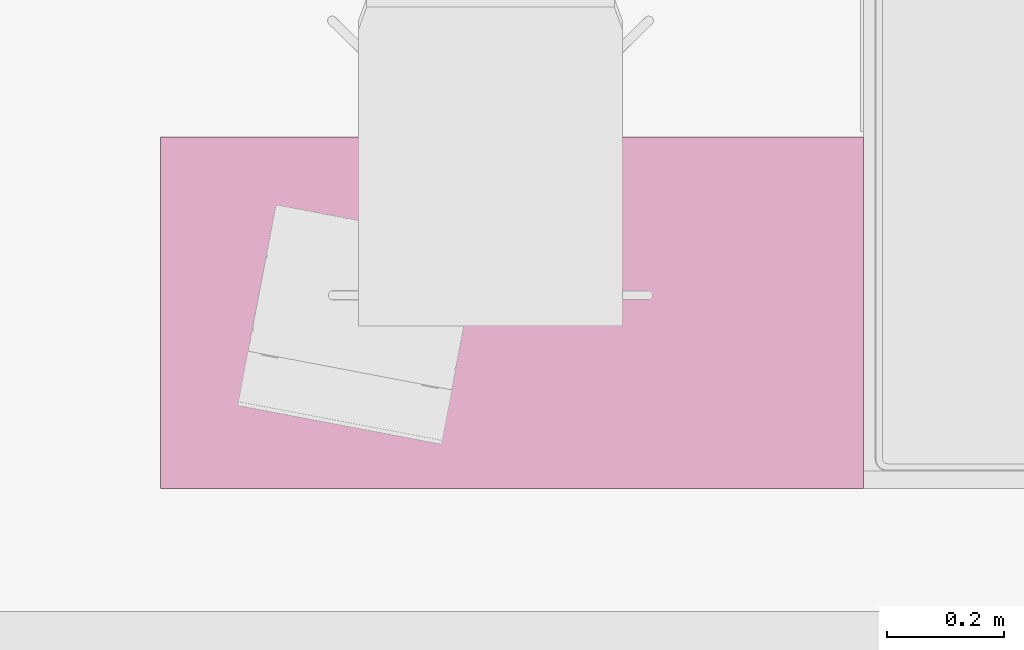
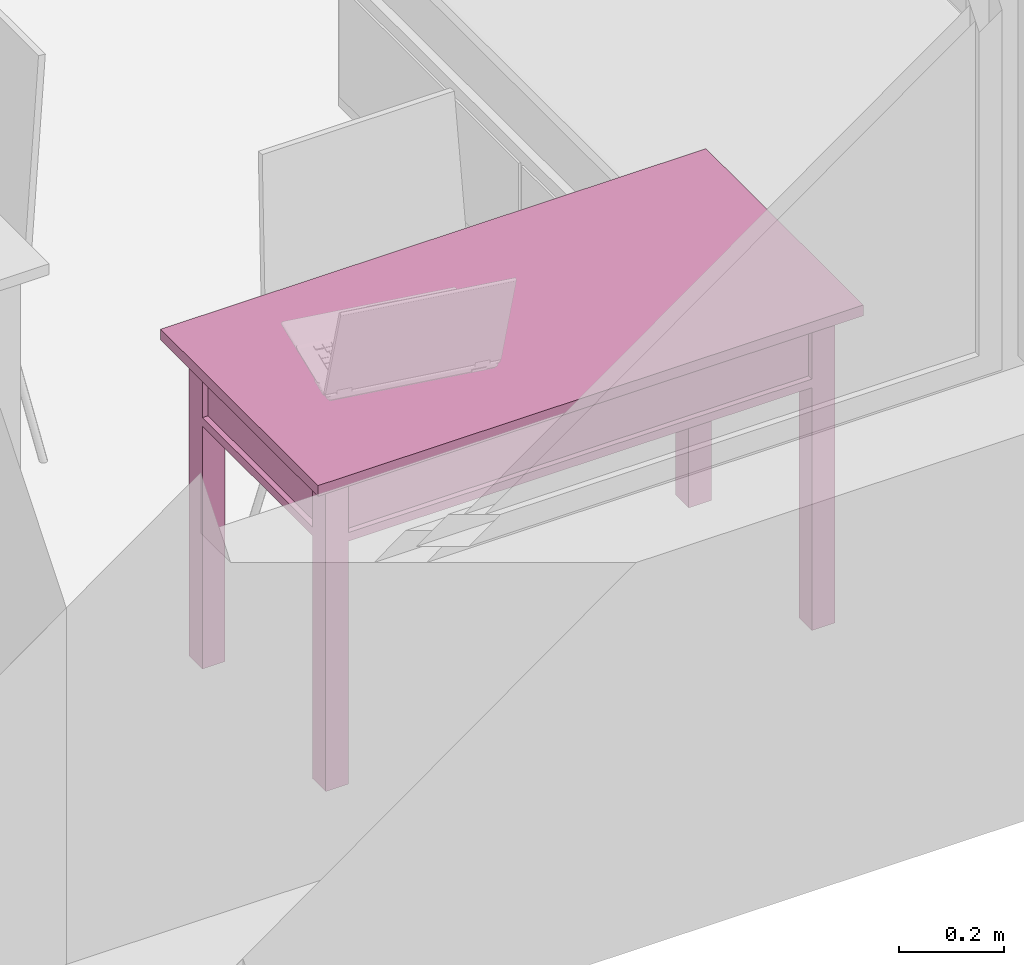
# One storey, part 114 of 165: 1 furnishing.
"""IFC2X3 building model written with IfcOpenShell, lengths in millimetres."""

import ifcopenshell
import ifcopenshell.guid

model = None  # the IFC model being written
_history = None  # IfcOwnerHistory: only IFC2X3 demands one
_inside = {}  # id of a spatial element -> (the spatial element, [elements in it])
_under = {}  # id of a project, library or spatial element -> (it, [spatial elements below it])
_declared = {}  # id of a project -> (the project, [libraries it declares])
_typed = {}  # id of a type object -> (the type object, [elements of that type])
_made_of = {}  # id of a material, layer set ... -> (it, [elements and type objects made of it])


def new_model(schema):
    """Start an empty IFC model of exactly this schema.

    Asked for "IFC4X3", IfcOpenShell would pick the latest addendum, in which some entities
    have other attributes; the version numbers below select the first issue.
    IFC2X3 requires an IfcOwnerHistory on every rooted entity: one is made here for all.
    """
    global model, _history
    if schema == "IFC4X3":
        model = ifcopenshell.file(schema_version=(4, 3, 0, 0))
    else:
        model = ifcopenshell.file(schema=schema)
    _inside.clear()
    _under.clear()
    _declared.clear()
    _typed.clear()
    _made_of.clear()
    _history = None
    if model.schema == "IFC2X3":
        org = make("IfcOrganization", Name="unknown")
        user = make(
            "IfcPersonAndOrganization",
            ThePerson=make("IfcPerson", FamilyName="unknown"),
            TheOrganization=org,
        )
        app = make(
            "IfcApplication",
            ApplicationDeveloper=org,
            Version="unknown",
            ApplicationFullName="unknown",
            ApplicationIdentifier="unknown",
        )
        _history = make(
            "IfcOwnerHistory",
            OwningUser=user,
            OwningApplication=app,
            ChangeAction="ADDED",
            CreationDate=0,
        )
    return model


def make(cls, **values):
    """One entity of the class cls with the attributes given. An attribute that is None is left unset."""
    return model.create_entity(
        cls, **{name: value for name, value in values.items() if value is not None}
    )


def entity(cls, *values):
    """Any entity or typed value of the class cls, its attributes in the order of the schema. None: left unset."""
    e = model.create_entity(cls)
    for i, value in enumerate(values):
        if value is not None:
            e[i] = value
    return e


def rooted(cls, **values):
    """An entity with a GlobalId (a new one), such as an element, a storey or a relation."""
    return make(cls, GlobalId=ifcopenshell.guid.new(), OwnerHistory=_history, **values)


def si_unit(unit_type, name, prefix=None):
    """IfcSIUnit, for example si_unit("LENGTHUNIT", "METRE", prefix="MILLI")."""
    return make("IfcSIUnit", UnitType=unit_type, Prefix=prefix, Name=name)


def converted_unit(unit_type, name, factor, base, dimensions=None, offset=None):
    """IfcConversionBasedUnit, such as the inch: factor (a typed value) times the base unit."""
    return make(
        "IfcConversionBasedUnit"
        if offset is None
        else "IfcConversionBasedUnitWithOffset",
        ConversionOffset=offset,
        Dimensions=None
        if dimensions is None
        else entity("IfcDimensionalExponents", *dimensions),
        UnitType=unit_type,
        Name=name,
        ConversionFactor=make(
            "IfcMeasureWithUnit", ValueComponent=factor, UnitComponent=base
        ),
    )


def money_unit(currency):
    """IfcMonetaryUnit."""
    return make("IfcMonetaryUnit", Currency=currency)


def assignment(units):
    """IfcUnitAssignment: the units of a project."""
    return None if units is None else make("IfcUnitAssignment", Units=units)


def point(xyz):
    """IfcCartesianPoint."""
    return None if xyz is None else make("IfcCartesianPoint", Coordinates=xyz)


def direction(xyz):
    """IfcDirection."""
    return None if xyz is None else make("IfcDirection", DirectionRatios=xyz)


def frame(location, z_axis=None, x_axis=None):
    """IfcAxis2Placement3D, a coordinate frame: its origin and axes. An axis left out is left unset."""
    return make(
        "IfcAxis2Placement3D",
        Location=point(location),
        Axis=direction(z_axis),
        RefDirection=direction(x_axis),
    )


def origin_with_axes():
    """The frame at (0, 0, 0) with the z axis (0, 0, 1) and the x axis (1, 0, 0) written out."""
    return frame((0.0, 0.0, 0.0), z_axis=(0.0, 0.0, 1.0), x_axis=(1.0, 0.0, 0.0))


def place(relative_to, where):
    """IfcLocalPlacement: puts the frame where relative to a parent placement (None: the world)."""
    return make(
        "IfcLocalPlacement", PlacementRelTo=relative_to, RelativePlacement=where
    )


def context(
    kind, dimensions, precision=None, world=None, true_north=None, identifier=None
):
    """IfcGeometricRepresentationContext, for example the 3D "Model" context."""
    return make(
        "IfcGeometricRepresentationContext",
        ContextIdentifier=identifier,
        ContextType=kind,
        CoordinateSpaceDimension=dimensions,
        Precision=precision,
        WorldCoordinateSystem=world,
        TrueNorth=true_north,
    )


def subcontext(parent, identifier, kind, view, scale=None):
    """IfcGeometricRepresentationSubContext, for example "Body" below "Model"."""
    return make(
        "IfcGeometricRepresentationSubContext",
        ContextIdentifier=identifier,
        ContextType=kind,
        ParentContext=parent,
        TargetScale=scale,
        TargetView=view,
    )


def project(units=None, contexts=None):
    """IfcProject with its units and contexts."""
    return rooted(
        "IfcProject",
        Name="project",
        RepresentationContexts=contexts,
        UnitsInContext=assignment(units),
    )


def spatial(cls, under=None, at=None, **own):
    """A site, building, storey or space (cls), placed at a placement, below another one or the project."""
    s = rooted(cls, ObjectPlacement=at, **own)
    if under is not None:
        _under.setdefault(under.id(), (under, []))[1].append(s)
    return s


def faces_of(points, faces, orient=None, outer=None):
    """IfcFace entities. A face is a list of loops; a loop is a list of indices into points, from 0.

    orient and outer hold one flag for each loop. By default every Orientation is true, the
    first loop of a face is its IfcFaceOuterBound and the others are IfcFaceBound.
    """
    made = []
    for i, loops in enumerate(faces):
        bounds = []
        for j, loop in enumerate(loops):
            is_outer = j == 0 if outer is None else outer[i][j]
            bounds.append(
                make(
                    "IfcFaceOuterBound" if is_outer else "IfcFaceBound",
                    Bound=make("IfcPolyLoop", Polygon=[points[k] for k in loop]),
                    Orientation=True if orient is None else orient[i][j],
                )
            )
        made.append(make("IfcFace", Bounds=bounds))
    return made


def faceted_brep(points, faces, orient=None, outer=None, voids=None):
    """IfcFacetedBrep: a solid bounded by flat faces; with voids (closed shells), ...WithVoids."""
    shared = [point(p) for p in points]
    hull = make("IfcClosedShell", CfsFaces=faces_of(shared, faces, orient, outer))
    if voids is None:
        return make("IfcFacetedBrep", Outer=hull)
    return make(
        "IfcFacetedBrepWithVoids",
        Outer=hull,
        Voids=[
            make(cls, CfsFaces=faces_of(shared, fs, o, b)) for cls, fs, o, b in voids
        ],
    )


def shape(context_of_items, identifier, shape_type, items):
    """IfcShapeRepresentation: the items that make up one representation, for example the "Body"."""
    return make(
        "IfcShapeRepresentation",
        ContextOfItems=context_of_items,
        RepresentationIdentifier=identifier,
        RepresentationType=shape_type,
        Items=items,
    )


def source(mapping_origin, context_of_items, identifier, shape_type, items):
    """IfcRepresentationMap: a shape defined once, which mapped items show again and again."""
    return make(
        "IfcRepresentationMap",
        MappingOrigin=mapping_origin,
        MappedRepresentation=shape(context_of_items, identifier, shape_type, items),
    )


def transform(
    local_origin,
    x_axis=None,
    y_axis=None,
    z_axis=None,
    scale=None,
    scale2=None,
    scale3=None,
    uniform=True,
):
    """IfcCartesianTransformationOperator3D, or its non-uniform kind. x_axis, y_axis, z_axis: its Axis1, 2, 3."""
    if uniform:
        return make(
            "IfcCartesianTransformationOperator3D",
            Axis1=direction(x_axis),
            Axis2=direction(y_axis),
            LocalOrigin=point(local_origin),
            Scale=scale,
            Axis3=direction(z_axis),
        )
    return make(
        "IfcCartesianTransformationOperator3DnonUniform",
        Axis1=direction(x_axis),
        Axis2=direction(y_axis),
        LocalOrigin=point(local_origin),
        Scale=scale,
        Axis3=direction(z_axis),
        Scale2=scale2,
        Scale3=scale3,
    )


def mapped(mapping_source, mapping_target):
    """IfcMappedItem: shows the shape of a source again, moved by a transform."""
    return make(
        "IfcMappedItem", MappingSource=mapping_source, MappingTarget=mapping_target
    )


def material(Name=None, Category=None):
    """IfcMaterial."""
    return make("IfcMaterial", Name=Name, Category=Category)


def material_list(materials):
    """IfcMaterialList."""
    return make("IfcMaterialList", Materials=materials)


def made_of(thing, what):
    """Note that an element or type object is made of a material, layer set ...; save() writes the relation."""
    if what is not None:
        _made_of.setdefault(what.id(), (what, []))[1].append(thing)
    return thing


def type_object(cls, material=None, **own):
    """A type object (cls), such as IfcWallType, which elements share."""
    return made_of(rooted(cls, **own), material)


def element(
    cls,
    number,
    at=None,
    inside=None,
    cuts=None,
    type_object=None,
    material=None,
    context=None,
    identifier="Body",
    shape_type=None,
    held_by="IfcProductDefinitionShape",
    body=None,
    shapes=None,
    **own,
):
    """One element of the class cls, such as IfcWall. Its Tag is "e" and its number.

    at: its placement. inside: the storey or other place that contains it. cuts: it is an
    opening in that element (IfcRelVoidsElement). A single representation is given by context,
    identifier, shape_type and body (its items); several are given by shapes. held_by: the class
    of the entity that holds the representations. save() writes the other relations.
    """
    e = rooted(cls, Tag="e%d" % number, ObjectPlacement=at, **own)
    if body is not None:
        shapes = [shape(context, identifier, shape_type, body)]
    if shapes is not None:
        e.Representation = make(held_by, Representations=shapes)
    if inside is not None:
        _inside.setdefault(inside.id(), (inside, []))[1].append(e)
    if cuts is not None:
        rooted(
            "IfcRelVoidsElement", RelatingBuildingElement=cuts, RelatedOpeningElement=e
        )
    if type_object is not None:
        _typed.setdefault(type_object.id(), (type_object, []))[1].append(e)
    return made_of(e, material)


def aggregate(whole, parts):
    """IfcRelAggregates: a whole, such as a stair, and the parts it consists of."""
    return rooted("IfcRelAggregates", RelatingObject=whole, RelatedObjects=parts)


def save(model, path):
    """Write the relations noted so far, then the file.

    IfcRelAggregates (storeys below a building ...), IfcRelContainedInSpatialStructure (elements
    in a storey), IfcRelDefinesByType, IfcRelAssociatesMaterial and IfcRelDeclares: one each for
    every whole, place, type object, material and project.
    """
    for whole, parts in _under.values():
        aggregate(whole, parts)
    for where, things in _inside.values():
        rooted(
            "IfcRelContainedInSpatialStructure",
            RelatedElements=things,
            RelatingStructure=where,
        )
    for kind, things in _typed.values():
        rooted("IfcRelDefinesByType", RelatedObjects=things, RelatingType=kind)
    for what, things in _made_of.values():
        rooted("IfcRelAssociatesMaterial", RelatedObjects=things, RelatingMaterial=what)
    for by, libraries in _declared.values():
        rooted("IfcRelDeclares", RelatingContext=by, RelatedDefinitions=libraries)
    model.write(path)


model = new_model("IFC2X3")

# Units and contexts
model_context = context("Model", 3, precision=1e-05, world=origin_with_axes(), true_north=direction((0.0, 1.0)))
body_context = subcontext(model_context, "Body", "Model", "MODEL_VIEW")
ifc_project = project(units=[si_unit("LENGTHUNIT", "METRE", prefix="MILLI"), si_unit("AREAUNIT", "SQUARE_METRE"), si_unit("VOLUMEUNIT", "CUBIC_METRE"), converted_unit("PLANEANGLEUNIT", "DEGREE", entity("IfcPlaneAngleMeasure", 0.0174532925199), si_unit("PLANEANGLEUNIT", "RADIAN"), dimensions=[0, 0, 0, 0, 0, 0, 0]), si_unit("SOLIDANGLEUNIT", "STERADIAN"), money_unit("USD"), converted_unit("TIMEUNIT", "Year", entity("IfcTimeMeasure", 31556926.0), si_unit("TIMEUNIT", "SECOND"), dimensions=[0, 0, 0, 0, 0, 0, 0]), si_unit("MASSUNIT", "GRAM"), si_unit("THERMODYNAMICTEMPERATUREUNIT", "DEGREE_CELSIUS"), si_unit("LUMINOUSINTENSITYUNIT", "LUMEN")], contexts=[model_context])

# Site, building, storey
site_placement = place(None, origin_with_axes())
site = spatial("IfcSite", under=ifc_project, at=site_placement, Name="Site", CompositionType="ELEMENT")
building_placement = place(site_placement, origin_with_axes())
building = spatial("IfcBuilding", under=site, at=building_placement, Name="Building", CompositionType="ELEMENT")
storey_placement = place(building_placement, frame((0.0, 0.0, 6300.0), z_axis=(0.0, 0.0, 1.0), x_axis=(1.0, 0.0, 0.0)))
storey = spatial("IfcBuildingStorey", under=building, at=storey_placement, Name="4KORRUS", CompositionType="ELEMENT", Elevation=6300.0)

# Furnishing
ifc_material = material(Name="Background")
ifc_material_list = material_list([ifc_material])
furnishing_element_type = type_object("IfcFurnishingElementType", Name="Rectangular Table 01 19")
shared_shape = source(origin_with_axes(), body_context, "Body", "Brep", [
    faceted_brep([(-90.0, 40.0, 0.0), (-90.0, 90.0, 0.0), (-40.0, 90.0, 0.0), (-40.0, 40.0, 0.0), (-90.0, 40.0, 725.0), (-90.0, 90.0, 725.0), (-40.0, 90.0, 725.0), (-40.0, 40.0, 725.0)], [[[0, 1, 2, 3]], [[0, 4, 5, 1]], [[1, 5, 6, 2]], [[2, 6, 7, 3]], [[3, 7, 4, 0]], [[7, 6, 5, 4]]]),
    faceted_brep([(-1160.0, 40.0, 0.0), (-1160.0, 90.0, 0.0), (-1110.0, 90.0, 0.0), (-1110.0, 40.0, 0.0), (-1160.0, 40.0, 725.0), (-1160.0, 90.0, 725.0), (-1110.0, 90.0, 725.0), (-1110.0, 40.0, 725.0)], [[[0, 1, 2, 3]], [[0, 4, 5, 1]], [[1, 5, 6, 2]], [[2, 6, 7, 3]], [[3, 7, 4, 0]], [[7, 6, 5, 4]]]),
    faceted_brep([(-90.0, 510.0, 0.0), (-90.0, 560.0, 0.0), (-40.0, 560.0, 0.0), (-40.0, 510.0, 0.0), (-90.0, 510.0, 725.0), (-90.0, 560.0, 725.0), (-40.0, 560.0, 725.0), (-40.0, 510.0, 725.0)], [[[0, 1, 2, 3]], [[0, 4, 5, 1]], [[1, 5, 6, 2]], [[2, 6, 7, 3]], [[3, 7, 4, 0]], [[7, 6, 5, 4]]]),
    faceted_brep([(-1160.0, 510.0, 0.0), (-1160.0, 560.0, 0.0), (-1110.0, 560.0, 0.0), (-1110.0, 510.0, 0.0), (-1160.0, 510.0, 725.0), (-1160.0, 560.0, 725.0), (-1110.0, 560.0, 725.0), (-1110.0, 510.0, 725.0)], [[[0, 1, 2, 3]], [[0, 4, 5, 1]], [[1, 5, 6, 2]], [[2, 6, 7, 3]], [[3, 7, 4, 0]], [[7, 6, 5, 4]]]),
    faceted_brep([(-1160.0, 40.0, 565.0), (-1160.0, 560.0, 565.0), (-40.0, 560.0, 565.0), (-40.0, 40.0, 565.0), (-1160.0, 40.0, 585.0), (-1160.0, 560.0, 585.0), (-40.0, 560.0, 585.0), (-40.0, 40.0, 585.0)], [[[0, 1, 2, 3]], [[0, 4, 5, 1]], [[1, 5, 6, 2]], [[2, 6, 7, 3]], [[3, 7, 4, 0]], [[7, 6, 5, 4]]]),
    faceted_brep([(-1110.0, 52.5, 585.0), (-1110.0, 77.5, 585.0), (-90.0, 77.5, 585.0), (-90.0, 52.5, 585.0), (-1110.0, 52.5, 745.0), (-1110.0, 77.5, 745.0), (-90.0, 77.5, 745.0), (-90.0, 52.5, 745.0)], [[[0, 1, 2, 3]], [[0, 4, 5, 1]], [[1, 5, 6, 2]], [[2, 6, 7, 3]], [[3, 7, 4, 0]], [[7, 6, 5, 4]]]),
    faceted_brep([(-77.5, 90.0, 585.0), (-77.5, 510.0, 585.0), (-52.5, 510.0, 585.0), (-52.5, 90.0, 585.0), (-77.5, 90.0, 745.0), (-77.5, 510.0, 745.0), (-52.5, 510.0, 745.0), (-52.5, 90.0, 745.0)], [[[0, 1, 2, 3]], [[0, 4, 5, 1]], [[1, 5, 6, 2]], [[2, 6, 7, 3]], [[3, 7, 4, 0]], [[7, 6, 5, 4]]]),
    faceted_brep([(-90.0, 547.5, 585.0), (-90.0, 522.5, 585.0), (-1110.0, 522.5, 585.0), (-1110.0, 547.5, 585.0), (-90.0, 547.5, 745.0), (-90.0, 522.5, 745.0), (-1110.0, 522.5, 745.0), (-1110.0, 547.5, 745.0)], [[[0, 1, 2, 3]], [[0, 4, 5, 1]], [[1, 5, 6, 2]], [[2, 6, 7, 3]], [[3, 7, 4, 0]], [[7, 6, 5, 4]]]),
    faceted_brep([(-1122.5, 510.0, 585.0), (-1122.5, 90.0, 585.0), (-1147.5, 90.0, 585.0), (-1147.5, 510.0, 585.0), (-1122.5, 510.0, 745.0), (-1122.5, 90.0, 745.0), (-1147.5, 90.0, 745.0), (-1147.5, 510.0, 745.0)], [[[0, 1, 2, 3]], [[0, 4, 5, 1]], [[1, 5, 6, 2]], [[2, 6, 7, 3]], [[3, 7, 4, 0]], [[7, 6, 5, 4]]]),
    faceted_brep([(-597.5, 40.0, 585.0), (-597.5, 60.0, 585.0), (-95.0, 60.0, 585.0), (-95.0, 40.0, 585.0), (-597.5, 40.0, 745.0), (-597.5, 60.0, 745.0), (-95.0, 60.0, 745.0), (-95.0, 40.0, 745.0)], [[[0, 1, 2, 3]], [[0, 4, 5, 1]], [[1, 5, 6, 2]], [[2, 6, 7, 3]], [[3, 7, 4, 0]], [[7, 6, 5, 4]]]),
    faceted_brep([(-1105.0, 40.0, 585.0), (-1105.0, 60.0, 585.0), (-602.5, 60.0, 585.0), (-602.5, 40.0, 585.0), (-1105.0, 40.0, 745.0), (-1105.0, 60.0, 745.0), (-602.5, 60.0, 745.0), (-602.5, 40.0, 745.0)], [[[0, 1, 2, 3]], [[0, 4, 5, 1]], [[1, 5, 6, 2]], [[2, 6, 7, 3]], [[3, 7, 4, 0]], [[7, 6, 5, 4]]]),
    faceted_brep([(-354.91, 40.0, 660.0), (-356.25, 40.0, 665.0), (-354.91, 40.0, 670.0), (-351.25, 40.0, 673.66), (-346.25, 40.0, 675.0), (-341.25, 40.0, 673.66), (-337.59, 40.0, 670.0), (-336.25, 40.0, 665.0), (-337.59, 40.0, 660.0), (-341.25, 40.0, 656.34), (-346.25, 40.0, 655.0), (-351.25, 40.0, 656.34), (-354.91, 25.0, 660.0), (-356.25, 25.0, 665.0), (-354.91, 25.0, 670.0), (-351.25, 25.0, 673.66), (-346.25, 25.0, 675.0), (-341.25, 25.0, 673.66), (-337.59, 25.0, 670.0), (-336.25, 25.0, 665.0), (-337.59, 25.0, 660.0), (-341.25, 25.0, 656.34), (-346.25, 25.0, 655.0), (-351.25, 25.0, 656.34)], [[[0, 1, 2, 3, 4, 5, 6, 7, 8, 9, 10, 11]], [[0, 12, 13, 1]], [[1, 13, 14, 2]], [[2, 14, 15, 3]], [[3, 15, 16, 4]], [[4, 16, 17, 5]], [[5, 17, 18, 6]], [[6, 18, 19, 7]], [[7, 19, 20, 8]], [[8, 20, 21, 9]], [[9, 21, 22, 10]], [[10, 22, 23, 11]], [[11, 23, 12, 0]], [[12, 23, 22, 21, 20, 19, 18, 17, 16, 15, 14, 13]]]),
    faceted_brep([(-356.25, 12.01, 665.0), (-354.91, 12.01, 660.0), (-346.25, 10.0, 665.0), (-363.571, 17.5, 665.0), (-361.25, 17.5, 656.34), (-351.25, 12.01, 656.34), (-354.91, 12.01, 670.0), (-366.25, 25.0, 665.0), (-363.571, 25.0, 655.0), (-354.91, 17.5, 650.0), (-361.25, 17.5, 673.66), (-346.25, 12.01, 655.0), (-351.25, 12.01, 673.66), (-363.571, 25.0, 675.0), (-356.25, 25.0, 682.321), (-346.25, 25.0, 685.0), (-336.25, 25.0, 682.321), (-328.929, 25.0, 675.0), (-326.25, 25.0, 665.0), (-328.929, 25.0, 655.0), (-336.25, 25.0, 647.679), (-346.25, 25.0, 645.0), (-356.25, 25.0, 647.679), (-346.25, 17.5, 647.679), (-354.91, 17.5, 680.0), (-341.25, 12.01, 656.34), (-346.25, 12.01, 675.0), (-346.25, 17.5, 682.321), (-337.59, 17.5, 680.0), (-331.25, 17.5, 673.66), (-328.929, 17.5, 665.0), (-331.25, 17.5, 656.34), (-337.59, 17.5, 650.0), (-337.59, 12.01, 660.0), (-341.25, 12.01, 673.66), (-337.59, 12.01, 670.0), (-336.25, 12.01, 665.0)], [[[0, 1, 2]], [[3, 4, 1, 0]], [[1, 5, 2]], [[6, 0, 2]], [[7, 8, 4, 3]], [[4, 9, 5, 1]], [[10, 3, 0, 6]], [[5, 11, 2]], [[12, 6, 2]], [[8, 7, 13, 14, 15, 16, 17, 18, 19, 20, 21, 22]], [[8, 22, 9, 4]], [[13, 7, 3, 10]], [[9, 23, 11, 5]], [[24, 10, 6, 12]], [[11, 25, 2]], [[26, 12, 2]], [[14, 13, 10, 24]], [[15, 14, 24, 27]], [[16, 15, 27, 28]], [[17, 16, 28, 29]], [[18, 17, 29, 30]], [[19, 18, 30, 31]], [[20, 19, 31, 32]], [[21, 20, 32, 23]], [[22, 21, 23, 9]], [[23, 32, 25, 11]], [[27, 24, 12, 26]], [[25, 33, 2]], [[34, 26, 2]], [[28, 27, 26, 34]], [[29, 28, 34, 35]], [[30, 29, 35, 36]], [[31, 30, 36, 33]], [[32, 31, 33, 25]], [[33, 36, 2]], [[35, 34, 2]], [[36, 35, 2]]]),
    faceted_brep([(-862.41, 40.0, 660.0), (-863.75, 40.0, 665.0), (-862.41, 40.0, 670.0), (-858.75, 40.0, 673.66), (-853.75, 40.0, 675.0), (-848.75, 40.0, 673.66), (-845.09, 40.0, 670.0), (-843.75, 40.0, 665.0), (-845.09, 40.0, 660.0), (-848.75, 40.0, 656.34), (-853.75, 40.0, 655.0), (-858.75, 40.0, 656.34), (-862.41, 25.0, 660.0), (-863.75, 25.0, 665.0), (-862.41, 25.0, 670.0), (-858.75, 25.0, 673.66), (-853.75, 25.0, 675.0), (-848.75, 25.0, 673.66), (-845.09, 25.0, 670.0), (-843.75, 25.0, 665.0), (-845.09, 25.0, 660.0), (-848.75, 25.0, 656.34), (-853.75, 25.0, 655.0), (-858.75, 25.0, 656.34)], [[[0, 1, 2, 3, 4, 5, 6, 7, 8, 9, 10, 11]], [[0, 12, 13, 1]], [[1, 13, 14, 2]], [[2, 14, 15, 3]], [[3, 15, 16, 4]], [[4, 16, 17, 5]], [[5, 17, 18, 6]], [[6, 18, 19, 7]], [[7, 19, 20, 8]], [[8, 20, 21, 9]], [[9, 21, 22, 10]], [[10, 22, 23, 11]], [[11, 23, 12, 0]], [[12, 23, 22, 21, 20, 19, 18, 17, 16, 15, 14, 13]]]),
    faceted_brep([(-863.75, 12.01, 665.0), (-862.41, 12.01, 660.0), (-853.75, 10.0, 665.0), (-871.071, 17.5, 665.0), (-868.75, 17.5, 656.34), (-858.75, 12.01, 656.34), (-862.41, 12.01, 670.0), (-873.75, 25.0, 665.0), (-871.071, 25.0, 655.0), (-862.41, 17.5, 650.0), (-868.75, 17.5, 673.66), (-853.75, 12.01, 655.0), (-858.75, 12.01, 673.66), (-871.071, 25.0, 675.0), (-863.75, 25.0, 682.321), (-853.75, 25.0, 685.0), (-843.75, 25.0, 682.321), (-836.429, 25.0, 675.0), (-833.75, 25.0, 665.0), (-836.429, 25.0, 655.0), (-843.75, 25.0, 647.679), (-853.75, 25.0, 645.0), (-863.75, 25.0, 647.679), (-853.75, 17.5, 647.679), (-862.41, 17.5, 680.0), (-848.75, 12.01, 656.34), (-853.75, 12.01, 675.0), (-853.75, 17.5, 682.321), (-845.09, 17.5, 680.0), (-838.75, 17.5, 673.66), (-836.429, 17.5, 665.0), (-838.75, 17.5, 656.34), (-845.09, 17.5, 650.0), (-845.09, 12.01, 660.0), (-848.75, 12.01, 673.66), (-845.09, 12.01, 670.0), (-843.75, 12.01, 665.0)], [[[0, 1, 2]], [[3, 4, 1, 0]], [[1, 5, 2]], [[6, 0, 2]], [[7, 8, 4, 3]], [[4, 9, 5, 1]], [[10, 3, 0, 6]], [[5, 11, 2]], [[12, 6, 2]], [[8, 7, 13, 14, 15, 16, 17, 18, 19, 20, 21, 22]], [[8, 22, 9, 4]], [[13, 7, 3, 10]], [[9, 23, 11, 5]], [[24, 10, 6, 12]], [[11, 25, 2]], [[26, 12, 2]], [[14, 13, 10, 24]], [[15, 14, 24, 27]], [[16, 15, 27, 28]], [[17, 16, 28, 29]], [[18, 17, 29, 30]], [[19, 18, 30, 31]], [[20, 19, 31, 32]], [[21, 20, 32, 23]], [[22, 21, 23, 9]], [[23, 32, 25, 11]], [[27, 24, 12, 26]], [[25, 33, 2]], [[34, 26, 2]], [[28, 27, 26, 34]], [[29, 28, 34, 35]], [[30, 29, 35, 36]], [[31, 30, 36, 33]], [[32, 31, 33, 25]], [[33, 36, 2]], [[35, 34, 2]], [[36, 35, 2]]]),
    faceted_brep([(-1200.0, 0.0, 725.0), (-1200.0, 600.0, 725.0), (0.0, 600.0, 725.0), (0.0, 0.0, 725.0), (-1200.0, 0.0, 750.0), (-1200.0, 600.0, 750.0), (0.0, 600.0, 750.0), (0.0, 0.0, 750.0)], [[[0, 1, 2, 3]], [[0, 4, 5, 1]], [[1, 5, 6, 2]], [[2, 6, 7, 3]], [[3, 7, 4, 0]], [[7, 6, 5, 4]]]),
])
furnishing_placement = place(storey_placement, frame((684.703296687, -18829.2398994, 0.0), z_axis=(0.0, 0.0, 1.0), x_axis=(-1.0, 0.0, 0.0)))
element("IfcFurnishingElement", 1, at=furnishing_placement, inside=storey, type_object=furnishing_element_type, material=ifc_material_list, Name="FU - 011", context=body_context, shape_type="MappedRepresentation", body=[
    mapped(shared_shape, transform((0.0, 0.0, 0.0))),
])

save(model, "model.ifc")
